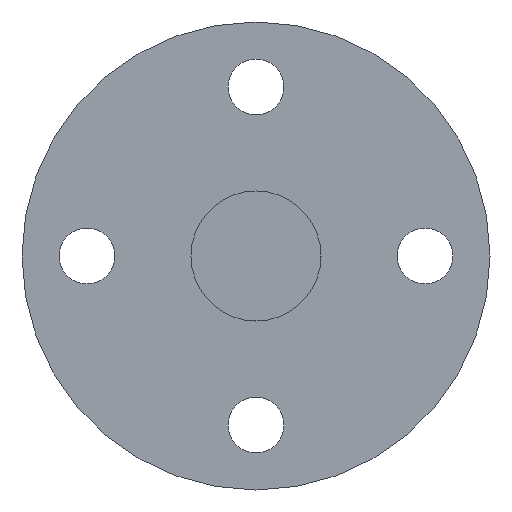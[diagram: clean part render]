
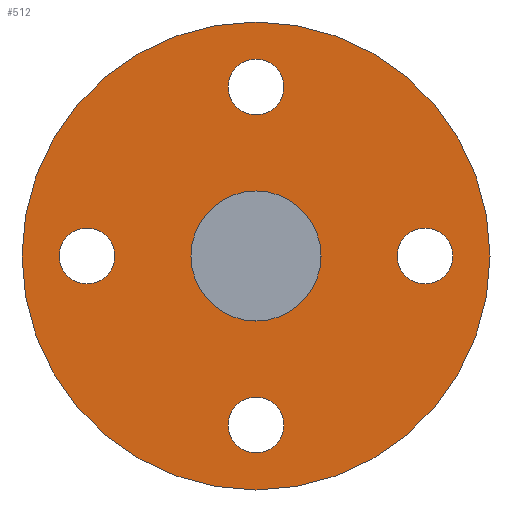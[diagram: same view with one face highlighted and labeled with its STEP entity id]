
A CAD part, left-side view. The second image highlights one B-rep face of the part: STEP entity #512.
In plain terms, the highlighted planar face has unit normal (-1, 0, 0).
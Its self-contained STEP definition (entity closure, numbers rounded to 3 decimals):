
#401=CARTESIAN_POINT('',(135.0,13.,-2.15));
#402=VERTEX_POINT('',#401);
#403=CARTESIAN_POINT('',(135.0,13.,0.));
#404=DIRECTION('',(1.0,0.0,0.0));
#405=DIRECTION('',(0.0,0.0,-1.0));
#406=AXIS2_PLACEMENT_3D('',#403,#404,#405);
#407=CIRCLE('',#406,2.15);
#408=EDGE_CURVE('',#402,#402,#407,.T.);
#421=CARTESIAN_POINT('',(135.0,-2.15,-13.));
#422=VERTEX_POINT('',#421);
#423=CARTESIAN_POINT('',(135.0,0.,-13.));
#424=DIRECTION('',(1.0,0.0,0.0));
#425=DIRECTION('',(0.0,-1.0,0.0));
#426=AXIS2_PLACEMENT_3D('',#423,#424,#425);
#427=CIRCLE('',#426,2.15);
#428=EDGE_CURVE('',#422,#422,#427,.T.);
#441=CARTESIAN_POINT('',(135.0,-13.,2.15));
#442=VERTEX_POINT('',#441);
#443=CARTESIAN_POINT('',(135.0,-13.,0.));
#444=DIRECTION('',(1.0,0.0,0.0));
#445=DIRECTION('',(0.0,0.0,1.0));
#446=AXIS2_PLACEMENT_3D('',#443,#444,#445);
#447=CIRCLE('',#446,2.15);
#448=EDGE_CURVE('',#442,#442,#447,.T.);
#461=CARTESIAN_POINT('',(135.0,2.15,13.));
#462=VERTEX_POINT('',#461);
#463=CARTESIAN_POINT('',(135.0,0.0,13.));
#464=DIRECTION('',(1.0,0.0,0.0));
#465=DIRECTION('',(0.0,1.0,0.0));
#466=AXIS2_PLACEMENT_3D('',#463,#464,#465);
#467=CIRCLE('',#466,2.15);
#468=EDGE_CURVE('',#462,#462,#467,.T.);
#473=CARTESIAN_POINT('',(135.0,0.0,11.5));
#474=DIRECTION('',(-1.0,0.0,0.0));
#475=DIRECTION('',(0.0,0.0,1.0));
#476=AXIS2_PLACEMENT_3D('',#473,#474,#475);
#477=PLANE('',#476);
#478=CARTESIAN_POINT('',(135.0,0.0,18.0));
#479=VERTEX_POINT('',#478);
#480=CARTESIAN_POINT('',(135.0,0.0,0.0));
#481=DIRECTION('',(-1.0,0.0,0.0));
#482=DIRECTION('',(0.0,0.0,1.0));
#483=AXIS2_PLACEMENT_3D('',#480,#481,#482);
#484=CIRCLE('',#483,18.0);
#485=EDGE_CURVE('',#479,#479,#484,.T.);
#486=ORIENTED_EDGE('',*,*,#485,.T.);
#487=EDGE_LOOP('',(#486));
#488=FACE_OUTER_BOUND('',#487,.T.);
#489=ORIENTED_EDGE('',*,*,#408,.T.);
#490=EDGE_LOOP('',(#489));
#491=FACE_BOUND('',#490,.T.);
#492=ORIENTED_EDGE('',*,*,#428,.T.);
#493=EDGE_LOOP('',(#492));
#494=FACE_BOUND('',#493,.T.);
#495=ORIENTED_EDGE('',*,*,#448,.T.);
#496=EDGE_LOOP('',(#495));
#497=FACE_BOUND('',#496,.T.);
#498=ORIENTED_EDGE('',*,*,#468,.T.);
#499=EDGE_LOOP('',(#498));
#500=FACE_BOUND('',#499,.T.);
#501=CARTESIAN_POINT('',(135.0,0.0,5.));
#502=VERTEX_POINT('',#501);
#503=CARTESIAN_POINT('',(135.0,0.0,0.0));
#504=DIRECTION('',(-1.0,0.0,0.0));
#505=DIRECTION('',(0.0,0.0,1.0));
#506=AXIS2_PLACEMENT_3D('',#503,#504,#505);
#507=CIRCLE('',#506,5.);
#508=EDGE_CURVE('',#502,#502,#507,.T.);
#509=ORIENTED_EDGE('',*,*,#508,.F.);
#510=EDGE_LOOP('',(#509));
#511=FACE_BOUND('',#510,.T.);
#512=ADVANCED_FACE('',(#488,#491,#494,#497,#500,#511),#477,.T.);
